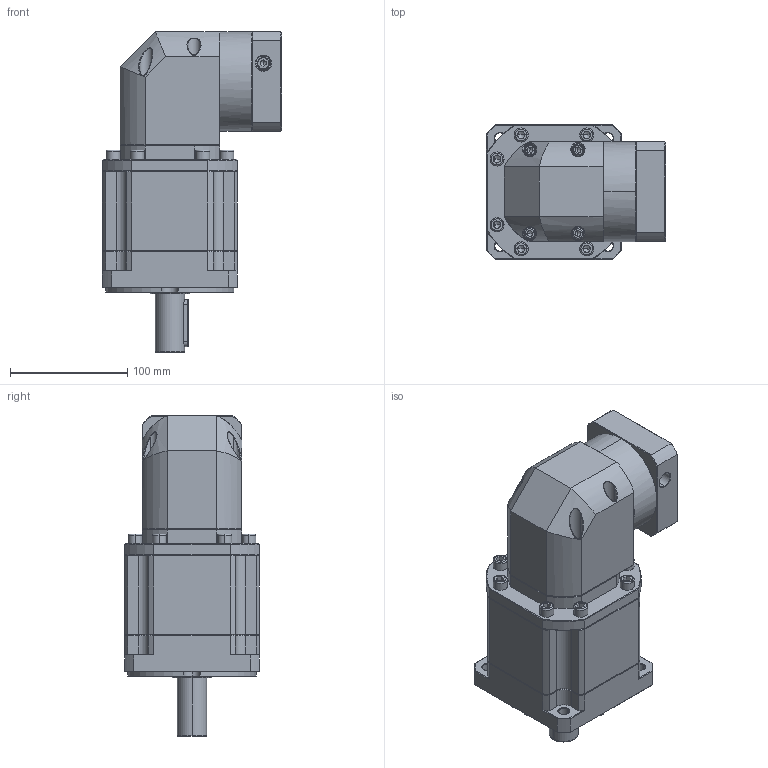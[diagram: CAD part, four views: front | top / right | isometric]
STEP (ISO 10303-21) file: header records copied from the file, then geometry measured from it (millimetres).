
FILE_DESCRIPTION (( 'STEP AP214' ), '1' );
FILE_NAME ('ZBR115A-D25-L3-P2-14-73-69.6X69.6-M6.step', '2023-08-26T13:33:15', ( '' ), ( '' ), 'SwSTEP 2.0', 'SolidWorks 2016', '' );
FILE_SCHEMA (( 'AUTOMOTIVE_DESIGN' ));
Length unit declared in the file: millimetre
Products named in the file (1): ZBR115A-D25-L3-P2-14-73-69.6X69.6-M6
Bounding box: 152.6 x 115 x 273.5 mm (x, y, z)
Volume: 2265922.7 mm3; surface area: 188744.1 mm2
Topology: 6 solids, 6 shells, 2593 faces, 6706 edges, 4222 vertices
Faces by surface type: plane 1281, cylinder 476, bspline 451, cone 371, torus 14
Entity records: 136857 total; most frequent: CARTESIAN_POINT 48968, ORIENTED_EDGE 13304, DIRECTION 10675, EDGE_CURVE 6652, LINE 4279, VECTOR 4279, VERTEX_POINT 4222, AXIS2_PLACEMENT_3D 3198
